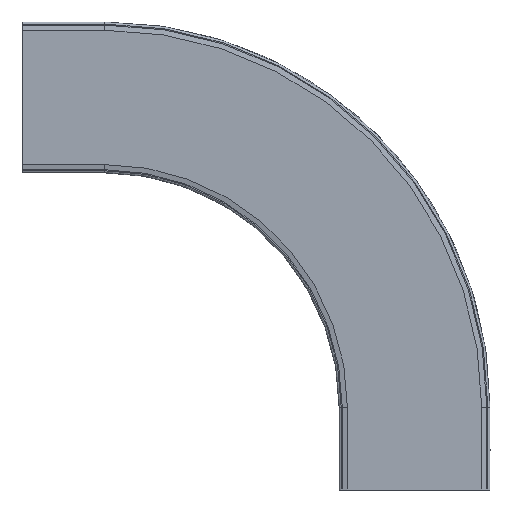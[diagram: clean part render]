
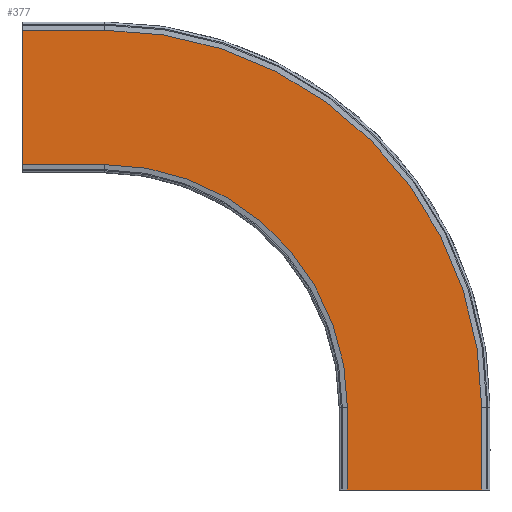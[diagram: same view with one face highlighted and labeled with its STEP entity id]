
A CAD part, front view. The second image highlights one B-rep face of the part: STEP entity #377.
In plain terms, the highlighted planar face has unit normal (0, -1, 0).
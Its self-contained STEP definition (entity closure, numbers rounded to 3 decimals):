
#73=CARTESIAN_POINT('',(-341.,-74.,315.));
#74=VERTEX_POINT('',#73);
#83=CARTESIAN_POINT('',(-341.,-74.,445.));
#84=VERTEX_POINT('',#83);
#85=CARTESIAN_POINT('',(-341.,-74.,445.));
#86=DIRECTION('',(0.0,0.0,-1.0));
#87=VECTOR('',#86,130.);
#88=LINE('',#85,#87);
#89=EDGE_CURVE('',#84,#74,#88,.T.);
#219=CARTESIAN_POINT('',(-261.,-74.,445.));
#220=VERTEX_POINT('',#219);
#221=CARTESIAN_POINT('',(-261.,-74.,445.));
#222=DIRECTION('',(-1.0,0.0,0.0));
#223=VECTOR('',#222,80.0);
#224=LINE('',#221,#223);
#225=EDGE_CURVE('',#220,#84,#224,.T.);
#293=CARTESIAN_POINT('',(-261.,-74.,315.));
#294=VERTEX_POINT('',#293);
#301=CARTESIAN_POINT('',(-261.,-74.,315.));
#302=DIRECTION('',(-1.0,0.0,0.0));
#303=VECTOR('',#302,80.0);
#304=LINE('',#301,#303);
#305=EDGE_CURVE('',#294,#74,#304,.T.);
#316=CARTESIAN_POINT('',(104.,-74.,80.0));
#317=VERTEX_POINT('',#316);
#318=CARTESIAN_POINT('',(-261.,-74.,80.0));
#319=DIRECTION('',(0.0,-1.0,0.0));
#320=DIRECTION('',(1.0,0.0,0.0));
#321=AXIS2_PLACEMENT_3D('',#318,#319,#320);
#322=CIRCLE('',#321,365.);
#323=EDGE_CURVE('',#317,#220,#322,.T.);
#335=CARTESIAN_POINT('',(290.239,-74.0,445.));
#336=DIRECTION('',(0.0,-1.0,0.0));
#337=DIRECTION('',(1.0,0.0,0.0));
#338=AXIS2_PLACEMENT_3D('',#335,#336,#337);
#339=PLANE('',#338);
#340=ORIENTED_EDGE('',*,*,#89,.T.);
#341=ORIENTED_EDGE('',*,*,#305,.F.);
#342=CARTESIAN_POINT('',(-26.,-74.,80.0));
#343=VERTEX_POINT('',#342);
#344=CARTESIAN_POINT('',(-261.,-74.,80.0));
#345=DIRECTION('',(0.0,-1.0,0.0));
#346=DIRECTION('',(1.0,0.0,0.0));
#347=AXIS2_PLACEMENT_3D('',#344,#345,#346);
#348=CIRCLE('',#347,235.);
#349=EDGE_CURVE('',#343,#294,#348,.T.);
#350=ORIENTED_EDGE('',*,*,#349,.F.);
#351=CARTESIAN_POINT('',(-26.,-74.,0.0));
#352=VERTEX_POINT('',#351);
#353=CARTESIAN_POINT('',(-26.,-74.,0.0));
#354=DIRECTION('',(0.0,0.0,1.0));
#355=VECTOR('',#354,80.0);
#356=LINE('',#353,#355);
#357=EDGE_CURVE('',#352,#343,#356,.T.);
#358=ORIENTED_EDGE('',*,*,#357,.F.);
#359=CARTESIAN_POINT('',(104.,-74.,0.0));
#360=VERTEX_POINT('',#359);
#361=CARTESIAN_POINT('',(-26.,-74.,0.0));
#362=DIRECTION('',(1.0,0.0,0.0));
#363=VECTOR('',#362,130.);
#364=LINE('',#361,#363);
#365=EDGE_CURVE('',#352,#360,#364,.T.);
#366=ORIENTED_EDGE('',*,*,#365,.T.);
#367=CARTESIAN_POINT('',(104.,-74.,0.0));
#368=DIRECTION('',(0.0,0.0,1.0));
#369=VECTOR('',#368,80.0);
#370=LINE('',#367,#369);
#371=EDGE_CURVE('',#360,#317,#370,.T.);
#372=ORIENTED_EDGE('',*,*,#371,.T.);
#373=ORIENTED_EDGE('',*,*,#323,.T.);
#374=ORIENTED_EDGE('',*,*,#225,.T.);
#375=EDGE_LOOP('',(#340,#341,#350,#358,#366,#372,#373,#374));
#376=FACE_OUTER_BOUND('',#375,.T.);
#377=ADVANCED_FACE('',(#376),#339,.T.);
